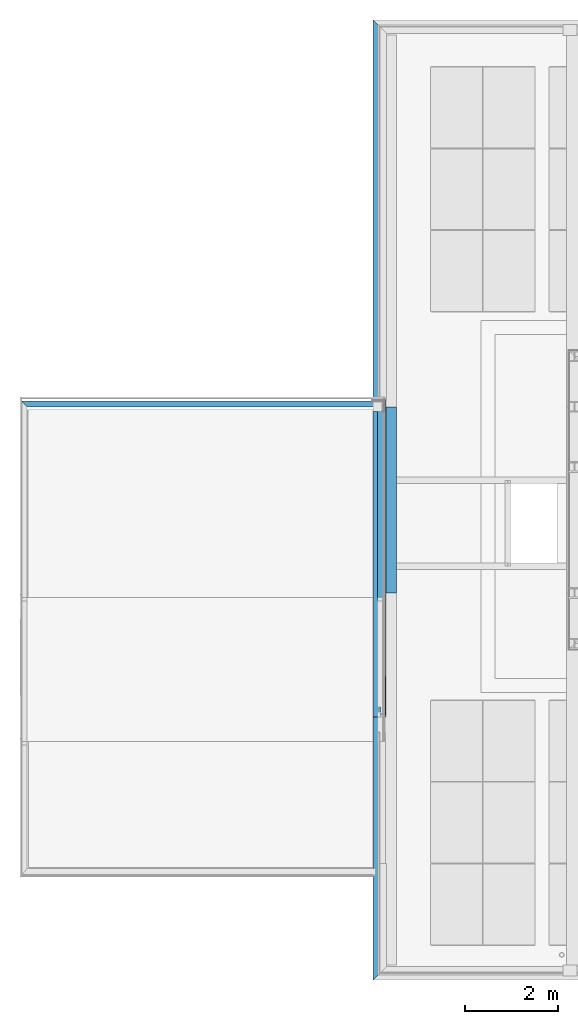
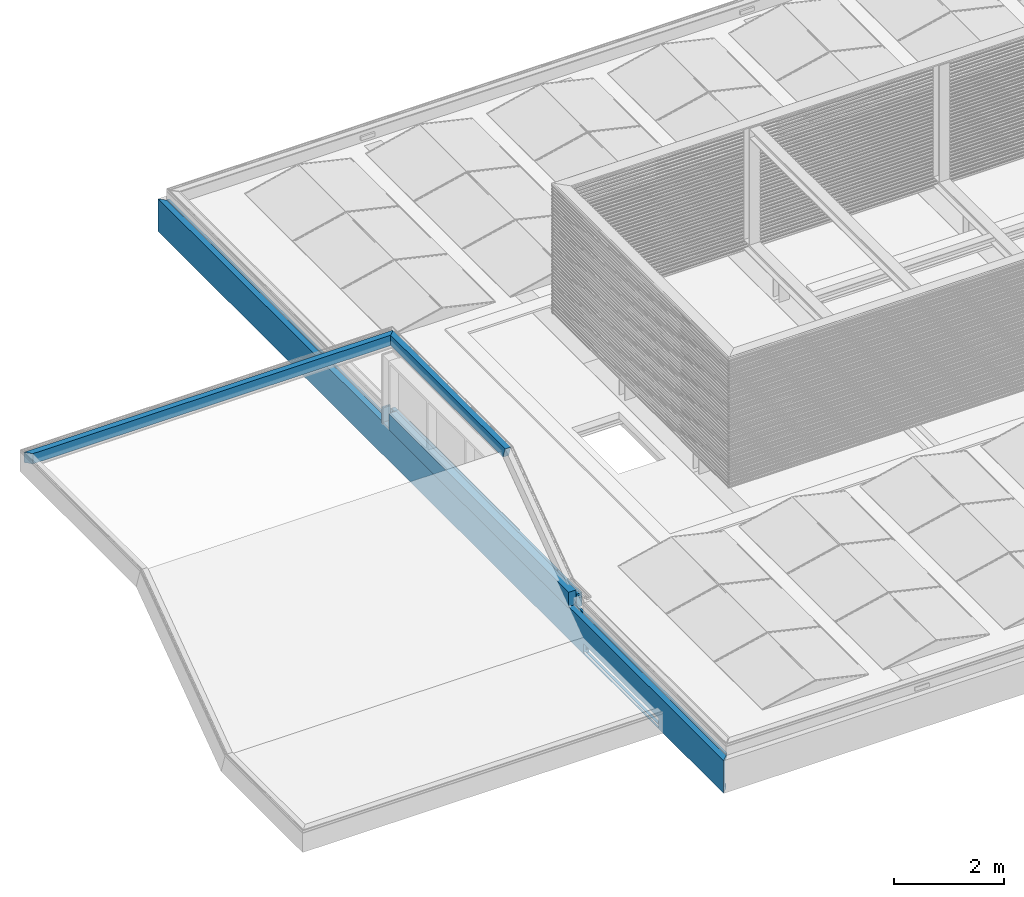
# One storey, part 6 of 63: 6 beams.
"""IFC2X3 building model written with IfcOpenShell, lengths in millimetres."""

from ifc_helpers import new_model, entity, si_unit, converted_unit, derived_unit, money_unit, direction, frame, origin_with_axes, place, context, subcontext, project, spatial, faceted_brep, material, type_object, element, save


model = new_model("IFC2X3")

# Units and contexts
model_context = context("Model", 3, precision=0.01, world=origin_with_axes(), true_north=direction((0.0, 1.0)))
body_context = subcontext(model_context, "Body", "Model", "MODEL_VIEW")
ifc_project = project(units=[si_unit("LENGTHUNIT", "METRE", prefix="MILLI"), si_unit("AREAUNIT", "SQUARE_METRE"), si_unit("VOLUMEUNIT", "CUBIC_METRE"), converted_unit("PLANEANGLEUNIT", "DEGREE", entity("IfcPlaneAngleMeasure", 0.0174532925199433), si_unit("PLANEANGLEUNIT", "RADIAN"), dimensions=[0, 0, 0, 0, 0, 0, 0]), money_unit("EUR"), converted_unit("TIMEUNIT", "Year", entity("IfcTimeMeasure", 31557600.0), si_unit("TIMEUNIT", "SECOND"), dimensions=[0, 0, 1, 0, 0, 0, 0]), si_unit("MASSUNIT", "GRAM", prefix="KILO"), si_unit("THERMODYNAMICTEMPERATUREUNIT", "DEGREE_CELSIUS"), si_unit("LUMINOUSINTENSITYUNIT", "LUMEN"), si_unit("ENERGYUNIT", "JOULE", prefix="MEGA"), derived_unit("THERMALCONDUCTANCEUNIT", [(si_unit("POWERUNIT", "WATT"), 1), (si_unit("LENGTHUNIT", "METRE"), -1), (si_unit("THERMODYNAMICTEMPERATUREUNIT", "KELVIN"), -1)]), derived_unit("SPECIFICHEATCAPACITYUNIT", [(si_unit("ENERGYUNIT", "JOULE"), 1), (si_unit("MASSUNIT", "GRAM", prefix="KILO"), -1), (si_unit("THERMODYNAMICTEMPERATUREUNIT", "KELVIN"), -1)]), derived_unit("MASSDENSITYUNIT", [(si_unit("MASSUNIT", "GRAM", prefix="KILO"), 1), (si_unit("VOLUMEUNIT", "CUBIC_METRE"), -1)])], contexts=[model_context])

# Site, building, storey
site_placement = place(None, origin_with_axes())
site = spatial("IfcSite", under=ifc_project, at=site_placement, Name="<site naam>", CompositionType="ELEMENT")
building_placement = place(site_placement, origin_with_axes())
building = spatial("IfcBuilding", under=site, at=building_placement, Name="<Naam gebouw>", CompositionType="ELEMENT")
storey_placement = place(building_placement, frame((0.0, 0.0, 12770.0), z_axis=(0.0, 0.0, 1.0), x_axis=(1.0, 0.0, 0.0)))
storey = spatial("IfcBuildingStorey", under=building, at=storey_placement, Name="04 4e verdieping", CompositionType="ELEMENT", Elevation=12770.0)

# Beams
ifc_material_1 = material(Name="beton_gewapend_prefab")
beam_type_1 = type_object("IfcBeamType", Name="Betonbanden 160 x 760", PredefinedType="BEAM")
beam_1_placement = place(storey_placement, frame((11725.00000000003, 20265.00000000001, 50.00000000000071), z_axis=(0.0, 0.0, 1.0), x_axis=(-1.0, 0.0, 0.0)))
element("IfcBeam", 1, at=beam_1_placement, inside=storey, type_object=beam_type_1, material=ifc_material_1, Name="41_Balk_Betonbanden", ObjectType="BEAM", context=body_context, shape_type="Brep", body=[
    faceted_brep([(59.99999757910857, -59.99999757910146, -30.00000230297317), (59.99999757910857, -59.99999757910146, -759.9999375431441), (59.99999757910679, 20589.99999719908, -759.9999375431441), (59.99999757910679, 20589.99999719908, -30.00000230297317), (59.99999757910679, 18214.60198163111, -530.0012514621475), (59.99999757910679, 18214.60198163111, -750.0012514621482), (59.99999757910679, 15465.00000000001, -750.0012514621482), (59.99999757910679, 15465.00000000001, -530.0012514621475), (-60.0000003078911, 60.0000003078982, -30.00000230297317), (-60.0000003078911, 60.0000003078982, 0.0), (-100.0000071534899, 100.0000071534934, 0.0), (-100.0000071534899, 100.0000071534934, -100.0000001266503), (4.298055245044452e-06, -4.298048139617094e-06, -100.0000001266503), (4.298055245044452e-06, -4.298048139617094e-06, -690.0000385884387), (-29.99999800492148, 29.99999800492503, -690.0000385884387), (-29.99999800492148, 29.99999800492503, -660.0000280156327), (-60.0000003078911, 60.0000003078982, -660.0000280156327), (-60.0000003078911, 60.0000003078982, -759.9999375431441), (4.298055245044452e-06, -4.298048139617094e-06, -759.9999375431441), (4.298055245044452e-06, -4.298048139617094e-06, -730.0000145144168), (29.99999527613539, -29.99999527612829, -730.0000145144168), (29.99999527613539, -29.99999527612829, -759.9999375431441), (29.99999527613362, 20559.99999489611, -759.9999375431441), (-100.0000071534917, 20429.99999246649, 0.0), (-60.00000030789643, 20469.99999931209, 0.0), (-60.00000030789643, 20469.99999931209, -30.00000230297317), (29.99999527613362, 20559.99999489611, -730.0000145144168), (4.298053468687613e-06, 20530.00000391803, -730.0000145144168), (4.298053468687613e-06, 20530.00000391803, -759.9999375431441), (-60.00000030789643, 20469.99999931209, -759.9999375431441), (-60.00000030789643, 20469.99999931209, -660.0000280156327), (-29.9999980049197, 20500.00000161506, -660.0000280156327), (-29.9999980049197, 20500.00000161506, -690.0000385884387), (4.298053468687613e-06, 20530.00000391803, -690.0000385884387), (4.298053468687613e-06, 20530.00000391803, -100.0000001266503), (-100.0000071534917, 20429.99999246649, -100.0000001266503), (-29.9999980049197, 18214.60198163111, -690.0000385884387), (-29.9999980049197, 18214.60198163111, -660.0000280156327), (-60.00000030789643, 18214.60198163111, -660.0000280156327), (-60.00000030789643, 18214.60198163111, -750.0012514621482), (4.298053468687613e-06, 18214.60198163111, -750.0012514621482), (4.298053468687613e-06, 18214.60198163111, -730.0000145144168), (29.99999527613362, 18214.60198163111, -730.0000145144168), (29.99999527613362, 18214.60198163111, -750.0012514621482), (4.298053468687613e-06, 18214.60198163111, -530.0012514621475), (4.298053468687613e-06, 18214.60198163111, -690.0000385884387), (29.99999527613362, 15465.00000000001, -750.0012514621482), (4.298053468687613e-06, 15465.00000000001, -750.0012514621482), (-60.00000030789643, 15465.00000000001, -750.0012514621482), (-60.00000030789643, 15465.00000000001, -660.0000280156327), (-29.9999980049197, 15465.00000000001, -660.0000280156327), (-29.9999980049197, 15465.00000000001, -690.0000385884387), (4.298053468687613e-06, 15465.00000000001, -690.0000385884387), (4.298053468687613e-06, 15465.00000000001, -530.0012514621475), (29.99999527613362, 15465.00000000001, -730.0000145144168), (4.298053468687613e-06, 15465.00000000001, -730.0000145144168)], [[[0, 1, 2, 3], [4, 5, 6, 7]], [[1, 0, 8, 9, 10, 11, 12, 13, 14, 15, 16, 17, 18, 19, 20, 21]], [[1, 21, 22, 2]], [[23, 24, 25, 3, 2, 22, 26, 27, 28, 29, 30, 31, 32, 33, 34, 35]], [[8, 0, 3, 25]], [[36, 37, 38, 39, 40, 41, 42, 43, 5, 4, 44, 45]], [[5, 43, 46, 6]], [[47, 48, 49, 50, 51, 52, 53, 7, 6, 46, 54, 55]], [[7, 53, 44, 4]], [[9, 8, 25, 24]], [[10, 9, 24, 23]], [[11, 10, 23, 35]], [[12, 11, 35, 34]], [[44, 53, 52, 13, 12, 34, 33, 45]], [[13, 52, 51, 14]], [[14, 51, 50, 15]], [[15, 50, 49, 16]], [[48, 39, 38, 30, 29, 17, 16, 49]], [[18, 17, 29, 28]], [[41, 40, 47, 55, 19, 18, 28, 27]], [[19, 55, 54, 20]], [[46, 43, 42, 26, 22, 21, 20, 54]], [[26, 42, 41, 27]], [[30, 38, 37, 31]], [[31, 37, 36, 32]], [[32, 36, 45, 33]], [[40, 39, 48, 47]]]),
])
ifc_material_2 = material(Name="ALG - BUITENAFWERKING")
beam_type_2 = type_object("IfcBeamType", Name="ALG - BUITENAFWERKING 159 x 360", PredefinedType="BEAM")
beam_2_placement = place(storey_placement, frame((11824.00616138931, 5334.38975903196, -19.99999943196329), z_axis=(0.0, 0.0, 1.0), x_axis=(1.0, 0.0, 0.0)))
element("IfcBeam", 2, at=beam_2_placement, inside=storey, type_object=beam_type_2, material=ifc_material_2, Name="47_Balk_ALG", ObjectType="BEAM", context=body_context, shape_type="Brep", body=[
    faceted_brep([(0.0, 0.0, 0.0), (0.0, 6566.589992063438, -5.680362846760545e-07), (0.0, 6566.589991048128, 360.0000006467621), (0.0, 0.0, 360.0000006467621), (-159.0000000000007, 0.0, 0.0), (-159.0000000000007, 6566.589991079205, -5.680362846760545e-07), (-159.0000000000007, 6566.589991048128, 360.0000006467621), (-159.0000000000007, 0.0, 360.0000006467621)], [[[0, 1, 2, 3]], [[4, 5, 1, 0]], [[5, 6, 2, 1]], [[3, 2, 6, 7]], [[3, 7, 4, 0]], [[7, 6, 5, 4]]]),
    faceted_brep([(-159.0000000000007, 6825.575913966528, 360.0000006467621), (-159.0000000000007, 6806.11960526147, 360.0000006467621), (-158.9734649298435, 6806.11960526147, 360.0000006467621), (-158.9734649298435, 6825.575913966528, 360.0000006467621), (-159.0000000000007, 6825.575913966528, 0.0), (-159.0000000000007, 6806.11960526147, -5.680362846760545e-07), (-158.9734649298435, 6806.11960526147, -5.680362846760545e-07), (-158.9734649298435, 6825.575913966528, -5.680362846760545e-07)], [[[0, 1, 2, 3]], [[4, 5, 1, 0]], [[6, 2, 1, 5]], [[6, 7, 3, 2]], [[0, 3, 7, 4]], [[7, 6, 5, 4]]]),
    faceted_brep([(0.0, 6774.642022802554, -5.680362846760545e-07), (0.0, 6803.092942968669, -5.680362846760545e-07), (0.0, 6803.092942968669, 360.0000006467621), (0.0, 6774.642022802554, 360.0000006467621), (-159.0000000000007, 6774.642022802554, -5.680362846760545e-07), (-159.0000000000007, 6803.092942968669, -5.680362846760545e-07), (-159.0000000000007, 6803.092942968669, 360.0000006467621), (-159.0000000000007, 6774.642022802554, 360.0000006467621)], [[[0, 1, 2, 3]], [[4, 5, 1, 0]], [[5, 6, 2, 1]], [[3, 2, 6, 7]], [[4, 0, 3, 7]], [[7, 6, 5, 4]]]),
    faceted_brep([(-157.973589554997, 6824.592937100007, 360.0000006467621), (-157.973589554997, 6805.09294138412, 360.0000006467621), (0.0, 6805.09294138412, 360.0000006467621), (0.0, 6824.592937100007, 360.0000006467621), (-157.973589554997, 6824.592937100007, -5.680362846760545e-07), (-157.973589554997, 6805.09294138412, -5.680362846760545e-07), (0.0, 6805.09294138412, -5.680362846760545e-07), (0.0, 6824.592937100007, -5.680362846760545e-07)], [[[0, 1, 2, 3]], [[4, 5, 1, 0]], [[5, 6, 2, 1]], [[3, 2, 6, 7]], [[4, 0, 3, 7]], [[7, 6, 5, 4]]]),
])
ifc_material_3 = material(Name="beton_gewapend C")
beam_type_3 = type_object("IfcBeamType", Name="beton_gewapend C 350 x 550", PredefinedType="BEAM")
beam_3_placement = place(storey_placement, frame((12000.00000000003, 12000.00000000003, -59.99999999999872), z_axis=(0.0, 0.0, 1.0), x_axis=(-1.0, 0.0, 0.0)))
element("IfcBeam", 3, at=beam_3_placement, inside=storey, type_object=beam_type_3, material=ifc_material_3, Name="28_Balk_beton_gewapend", ObjectType="BEAM", context=body_context, shape_type="Brep", body=[
    faceted_brep([(175.0000000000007, 0.0, -159.9999853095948), (174.9999999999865, 3725.0, -159.9999853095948), (-175.0000000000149, 3725.0, -159.9999853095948), (-175.0000000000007, 0.0, -159.9999853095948), (174.9999999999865, 275.0000000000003, -550.0000000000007), (174.9999999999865, 3725.0, -550.0000000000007), (174.9999999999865, 0.0, -220.0000000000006), (174.9999999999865, 275.0000000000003, -220.0000000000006), (-175.0000000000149, 3725.0, -550.0000000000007), (-175.0000000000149, 275.0000000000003, -550.0000000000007), (-175.0000000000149, 275.0000000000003, -220.0000000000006), (-175.0000000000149, 0.0, -220.0000000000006)], [[[0, 1, 2, 3]], [[4, 5, 1, 0, 6, 7]], [[5, 8, 2, 1]], [[3, 2, 8, 9, 10, 11]], [[3, 11, 6, 0]], [[9, 8, 5, 4]], [[7, 6, 11, 10]], [[7, 10, 9, 4]]]),
    faceted_brep([(-175.0000000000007, 4005.54614990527, 0.0), (-175.0000000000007, 4005.54614990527, -9.99998530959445), (-175.0000000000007, 0.0, -9.99998530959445), (-175.0000000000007, 0.0, 0.0), (174.9999999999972, 4005.54614990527, 0.0), (174.9999999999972, 4005.54614990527, -9.99998530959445), (175.0000000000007, 0.0, -9.99998530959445), (175.0000000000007, 0.0, 0.0)], [[[0, 1, 2, 3]], [[4, 5, 1, 0]], [[5, 6, 2, 1]], [[3, 2, 6, 7]], [[3, 7, 4, 0]], [[7, 6, 5, 4]]]),
])
beam_type_4 = type_object("IfcBeamType", Name="ALG - BUITENAFWERKING 120 x 230", PredefinedType="BEAM")
beam_4_placement = place(storey_placement, frame((11763.410238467, 12005.13994272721, 1759.973082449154), z_axis=(0.0, 0.0, 1.0), x_axis=(0.0, 1.0, 0.0)))
element("IfcBeam", 4, at=beam_4_placement, inside=storey, type_object=beam_type_4, material=ifc_material_2, Name="47_Balk_ALG", ObjectType="BEAM", context=body_context, shape_type="Brep", body=[
    faceted_brep([(120.000000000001, 7656.964715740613, 0.0), (120.000000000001, 7656.964715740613, 198.1232229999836), (120.000000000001, 7656.910931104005, 198.1301629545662), (120.000000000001, 7656.910931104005, 209.0654661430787), (120.000000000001, 7656.964715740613, 209.0654661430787), (120.000000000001, 7656.964715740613, 230.0000000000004), (119.9999999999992, -120.0000000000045, 230.0000000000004), (119.9999999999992, -120.0000000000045, 0.0), (119.9462153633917, 7656.910931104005, 209.0654661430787), (119.9462153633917, 7656.910931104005, 198.1301629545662), (0.0, 7536.964715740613, 0.0), (0.0, 7536.964715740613, 230.0000000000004), (0.0, 0.0, 230.0000000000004), (0.0, 0.0, 0.0)], [[[0, 1, 2, 3, 4, 5, 6, 7]], [[8, 9, 1, 0, 10, 11, 5, 4]], [[9, 2, 1]], [[8, 3, 2, 9]], [[8, 4, 3]], [[11, 12, 6, 5]], [[12, 13, 7, 6]], [[0, 7, 13, 10]], [[10, 13, 12, 11]]]),
])
beam_5_placement = place(storey_placement, frame((11763.410238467, 7900.000000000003, 1759.973082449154), z_axis=(0.0, 0.0, 1.0), x_axis=(1.0, 0.0, 0.0)))
element("IfcBeam", 5, at=beam_5_placement, inside=storey, type_object=beam_type_4, material=ifc_material_2, Name="47_Balk_ALG", ObjectType="BEAM", context=body_context, shape_type="Brep", body=[
    faceted_brep([(110.0807935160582, -74.39881742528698, 230.0000000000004), (110.005901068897, -74.09070568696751, 230.0000000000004), (110.1080148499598, -73.66977814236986, 230.0000000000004), (110.3545389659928, -73.49542906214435, 230.0000000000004), (119.9999999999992, -73.49566925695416, 230.0000000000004), (119.9999999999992, 4225.139942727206, 230.0000000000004), (0.0, 4105.139942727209, 230.0000000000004), (0.0, -74.39881742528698, 230.0000000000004), (110.005901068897, -74.34044659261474, 229.81954966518), (110.1080148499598, -74.26070314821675, 229.5730270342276), (110.3545389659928, -74.22767324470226, 229.4709168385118), (119.9999999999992, -74.22771874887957, 229.4710575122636), (119.9999999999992, 4225.139942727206, 0.0), (119.9999999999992, 0.0, 0.0), (0.0, 4105.139942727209, 0.0), (0.0, 0.0, 0.0)], [[[0, 1, 2, 3, 4, 5, 6, 7]], [[0, 8, 1]], [[8, 9, 2, 1]], [[9, 10, 3, 2]], [[3, 10, 11, 4]], [[12, 5, 4, 11, 13]], [[12, 14, 6, 5]], [[14, 15, 7, 6]], [[10, 9, 8, 0, 7, 15, 13, 11]], [[12, 13, 15, 14]]]),
])
beam_type_5 = type_object("IfcBeamType", Name="ALG - BUITENAFWERKING 120 x 300", PredefinedType="BEAM")
beam_6_placement = place(storey_placement, frame((11944.95984665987, 5334.38975903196, -60.00065790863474), z_axis=(0.0, 0.0, 1.0), x_axis=(1.0, 0.0, 0.0)))
element("IfcBeam", 6, at=beam_6_placement, inside=storey, type_object=beam_type_5, material=ifc_material_2, Name="47_Balk_ALG", ObjectType="BEAM", context=body_context, shape_type="Brep", body=[
    faceted_brep([(-119.9999999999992, 6805.09294138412, 300.0006579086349), (-46.95163649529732, 6805.09294138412, 300.0006579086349), (-46.95163649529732, 6572.589868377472, 300.0006579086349), (-27.40473812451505, 6572.589868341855, 300.0006579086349), (-27.40473044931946, 6824.639851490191, 300.0006579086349), (-27.45164483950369, 6824.592937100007, 300.0006579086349), (-119.9999999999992, 6824.592937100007, 300.0006579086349), (-46.95163649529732, 6805.09294138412, 40.00065790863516), (-119.9999999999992, 6805.09294138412, 40.00065790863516), (-46.95163649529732, 6572.589868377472, 40.00065790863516), (-27.40473812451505, 6572.589868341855, 40.00065790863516), (-27.40473044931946, 6824.639851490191, 40.00065790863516), (-27.45164483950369, 6824.592937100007, 40.00065790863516), (-119.9999999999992, 6824.592937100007, 40.00065790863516), (-119.9999999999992, 6803.092942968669, 40.00065790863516), (-119.9999999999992, 6825.575913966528, 40.00065790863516), (-119.9999999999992, 6825.575913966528, 0.0), (-119.9999999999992, 0.0, 0.0), (-119.9999999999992, 0.0, 300.0006579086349), (-119.9999999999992, 6566.589991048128, 300.0006579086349), (-119.9999999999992, 6566.589992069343, 40.00065790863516), (-119.9999999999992, 6774.642022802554, 40.00065790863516), (-119.9999999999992, 6774.642022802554, 300.0006579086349), (-119.9999999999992, 6803.092942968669, 300.0006579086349), (-48.95163897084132, 6803.092942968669, 40.00065790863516), (-48.95163897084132, 6553.124882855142, 40.00065790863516), (-45.97807067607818, 6553.124883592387, 40.00065790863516), (-45.97807067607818, 6571.589991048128, 40.00065790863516), (-26.45164360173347, 6571.589991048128, 40.00065790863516), (-26.45164360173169, 6825.575913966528, 40.00065790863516), (-26.45164360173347, 6825.575913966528, 300.0006579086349), (0.0, 6825.575913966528, 300.0006579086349), (0.0, 6825.575913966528, 0.0), (-30.55235304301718, 419.0663283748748, 0.0), (-30.55235304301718, 446.8979272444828, 0.0), (-27.74437574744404, 446.8979272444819, 0.0), (-27.74437574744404, 0.0, 0.0), (0.0, 0.0, 0.0), (-26.55235304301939, 0.0, 0.0), (-26.55235304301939, 448.9468793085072, 0.0), (-31.75235304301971, 448.9468793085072, 0.0), (-31.75235304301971, 419.0663283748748, 0.0), (-61.55235304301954, 371.2574325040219, 0.0), (-60.352353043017, 371.2574325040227, 0.0), (-60.352353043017, 395.8325689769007, 0.0), (-28.55235961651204, 405.4066335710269, 0.0), (-28.55235961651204, 439.5558597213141, 0.0), (-29.75235304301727, 439.5558597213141, 0.0), (-29.75235304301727, 407.1259104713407, 0.0), (-61.55235304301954, 397.5518438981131, 0.0), (-60.352353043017, 0.0, 223.3872919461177), (-60.352353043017, 0.0, 211.495769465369), (-26.55235304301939, 0.0, 206.1151341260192), (0.0, 0.0, 300.0006579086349), (-27.74437574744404, 0.0, 204.5142225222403), (-61.55235304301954, 0.0, 209.8961289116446), (-61.55235304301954, 0.0, 223.3872919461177), (-38.75334145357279, 0.0, 273.6082003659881), (-38.0456602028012, 0.0, 273.9702606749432), (-27.54566026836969, 0.0, 273.9702606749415), (-26.83855345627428, 0.0, 273.6089108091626), (-26.54566022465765, 0.0, 272.7365350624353), (-26.54566022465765, 0.0, 219.6863360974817), (-26.8385534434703, 0.0, 218.8139603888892), (-27.54566022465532, 0.0, 218.452610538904), (-28.04563878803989, 0.0, 218.6178831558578), (-34.24424379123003, 0.0, 223.0328461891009), (-34.52394359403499, 0.0, 223.4824961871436), (-34.46403926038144, 0.0, 224.0444555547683), (-34.09961564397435, 0.0, 224.3895951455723), (-33.64410887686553, 0.0, 224.3157731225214), (-30.44409772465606, 0.0, 222.0381254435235), (-30.44409772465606, 0.0, 222.7706499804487), (-30.29765111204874, 0.0, 223.2068378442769), (-29.94409771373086, 0.0, 223.3875127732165), (-29.74487899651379, 0.0, 223.3875127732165), (-29.3913255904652, 0.0, 223.2068378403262), (-29.24487897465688, 0.0, 222.7706499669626), (-29.24487897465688, 0.0, 221.1827102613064), (-28.49538217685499, 0.0, 220.6481334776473), (-28.15815556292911, 0.0, 220.5745669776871), (-27.86152994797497, 0.0, 220.7857133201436), (-27.74437574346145, 0.0, 221.1827206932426), (-27.74487897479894, 0.0, 257.9318388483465), (-27.89132856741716, 0.0, 258.3680199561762), (-28.24487896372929, 0.0, 258.5486911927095), (-28.74487897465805, 0.0, 258.5486911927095), (-29.09843236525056, 0.0, 258.3680162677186), (-29.24487897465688, 0.0, 257.9318284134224), (-29.24487897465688, 0.0, 256.0812400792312), (-29.39132558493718, 0.0, 255.6450522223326), (-29.74487897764, 0.0, 255.4643772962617), (-31.51831647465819, 0.0, 255.4643772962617), (-36.72380224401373, 0.0, 251.3690184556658), (-36.85816022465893, 0.0, 250.9728451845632), (-37.11597272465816, 0.0, 250.8379064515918), (-37.43628522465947, 0.0, 251.0017606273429), (-38.08666122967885, 0.0, 250.702728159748), (-38.24097272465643, 0.0, 250.3222477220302), (-38.51050397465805, 0.0, 250.2114051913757), (-38.81909772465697, 0.0, 250.4041748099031), (-44.74458729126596, 0.0, 249.2962254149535), (-71.1950692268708, 0.0, 249.2957494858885), (-71.44159334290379, 0.0, 249.4217254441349), (-71.54370712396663, 0.0, 249.7258667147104), (-71.4412499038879, 0.0, 250.0304322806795), (-71.19409772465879, 0.0, 250.1559839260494), (-66.5456602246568, 0.0, 250.7752563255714), (-66.24487897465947, 0.0, 251.146337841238), (-63.84644147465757, 0.0, 251.146337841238), (-63.54566022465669, 0.0, 250.7752563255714), (-60.54566022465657, 0.0, 250.7752563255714), (-60.24487897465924, 0.0, 251.146337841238), (-57.84644147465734, 0.0, 251.146337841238), (-57.54566022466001, 0.0, 250.7752563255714), (-54.54566022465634, 0.0, 250.7752563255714), (-54.24487897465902, 0.0, 251.146337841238), (-51.84644147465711, 0.0, 251.146337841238), (-51.54566022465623, 0.0, 250.7752563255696), (-48.54566022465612, 0.0, 250.7752563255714), (-48.24487897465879, 0.0, 251.146337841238), (-45.84644147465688, 0.0, 251.146337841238), (-45.545660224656, 0.0, 250.7752563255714), (-44.74487637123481, 0.0, 250.7752563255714), (-36.56232951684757, 0.0, 253.0872806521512), (-30.01101861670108, 0.0, 259.5624411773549), (-29.23066334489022, 0.0, 260.0273527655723), (-28.74346864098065, 0.0, 260.0282004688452), (-28.0372739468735, 0.0, 260.3901638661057), (-27.74487897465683, 0.0, 261.2619235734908), (-27.74487897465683, 0.0, 271.8738910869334), (-27.89132558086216, 0.0, 272.3100789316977), (-28.24487896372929, 0.0, 272.4907538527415), (-37.34644147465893, 0.0, 272.4907538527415), (-37.69999486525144, 0.0, 272.3100789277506), (-37.84644147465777, 0.0, 271.8738910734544), (-37.84644147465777, 0.0, 269.7751117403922), (-38.02131892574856, 0.0, 269.2539434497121), (-38.4436110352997, 0.0, 269.0377686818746), (-38.86618772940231, 0.0, 269.2530953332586), (-39.04175239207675, 0.0, 269.7739118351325), (-39.04565757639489, 0.0, 272.7345274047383), (-48.95163897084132, 6553.124882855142, 300.0006579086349), (-48.95163897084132, 6803.092942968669, 300.0006579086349), (-78.45164360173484, 6774.642022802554, 300.0006579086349), (-78.45164360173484, 6566.589991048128, 300.0006579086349), (-78.9516455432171, 6566.589992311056, 300.0006579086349), (-78.9516455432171, 6553.124882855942, 300.0006579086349), (-80.95164670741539, 6553.124882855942, 300.0006579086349), (-80.95164670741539, 6566.589992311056, 300.0006579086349), (-26.45164360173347, 6571.589991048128, 300.0006579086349), (-45.97807067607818, 6571.589991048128, 300.0006579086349), (-45.97807067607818, 6553.124883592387, 300.0006579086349), (-61.55235304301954, 786.4544232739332, 300.0006579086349), (-61.55235304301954, 812.7488346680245, 300.0006579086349), (-29.75235304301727, 822.3229012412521, 300.0006579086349), (-29.75235304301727, 854.7528504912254, 300.0006579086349), (-28.55235961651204, 854.7528504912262, 300.0006579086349), (-28.55235961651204, 820.6036243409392, 300.0006579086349), (-60.352353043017, 811.029559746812, 300.0006579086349), (-60.352353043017, 786.4544232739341, 300.0006579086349), (-30.55235304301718, 862.0949180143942, 300.0006579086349), (-30.55235304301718, 834.2633191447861, 300.0006579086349), (-31.75235304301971, 834.2633191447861, 300.0006579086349), (-31.75235304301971, 864.1438700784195, 300.0006579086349), (-26.55235304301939, 864.1438700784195, 300.0006579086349), (-26.55235304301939, 129.9363382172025, 300.0006579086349), (-60.352353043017, 122.4896092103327, 300.0006579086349), (-60.352353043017, 106.0318974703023, 300.0006579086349), (-61.55235304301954, 106.0318974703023, 300.0006579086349), (-61.55235304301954, 124.7034908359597, 300.0006579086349), (-27.74437574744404, 132.1519789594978, 300.0006579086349), (-27.74437574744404, 862.0949180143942, 300.0006579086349), (-34.24424379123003, 106.5224457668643, 300.0006579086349), (-28.04563878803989, 112.6326969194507, 300.0006579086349), (-27.54566022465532, 112.8614320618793, 300.0006579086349), (-26.8385534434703, 112.3613285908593, 300.0006579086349), (-26.54566022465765, 111.1539720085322, 300.0006579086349), (-26.54566022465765, 37.73318978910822, 300.0006579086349), (-26.83855345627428, 36.52583315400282, 300.0006579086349), (-27.54566026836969, 36.02572966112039, 300.0006579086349), (-38.0456602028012, 36.02572966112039, 300.0006579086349), (-38.75334145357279, 36.52681639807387, 300.0006579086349), (-39.04565757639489, 37.73596836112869, 300.0006579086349), (-39.04175239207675, 41.83342162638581, 300.0006579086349), (-38.86618772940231, 42.5542248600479, 300.0006579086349), (-38.4436110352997, 42.85223413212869, 300.0006579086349), (-38.02131892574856, 42.5530510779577, 300.0006579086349), (-37.84644147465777, 41.8317609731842, 300.0006579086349), (-37.84644147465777, 38.9270777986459, 300.0006579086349), (-37.69999486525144, 38.3233995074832, 300.0006579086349), (-37.34644147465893, 38.07334777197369, 300.0006579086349), (-28.24487896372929, 38.07334777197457, 300.0006579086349), (-27.89132558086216, 38.32339950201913, 300.0006579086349), (-27.74487897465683, 38.92707777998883, 300.0006579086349), (-27.74487897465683, 53.6139021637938, 300.0006579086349), (-28.0372739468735, 54.82040620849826, 300.0006579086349), (-28.74346864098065, 55.32135882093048, 300.0006579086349), (-29.23066334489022, 55.32253203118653, 300.0006579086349), (-30.01101861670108, 55.96596359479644, 300.0006579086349), (-36.56232951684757, 64.92750115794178, 300.0006579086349), (-44.74487637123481, 68.12731261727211, 300.0006579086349), (-45.545660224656, 68.12731261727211, 300.0006579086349), (-45.84644147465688, 67.61374064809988, 300.0006579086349), (-48.24487897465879, 67.61374064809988, 300.0006579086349), (-48.54566022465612, 68.12731261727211, 300.0006579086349), (-51.54566022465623, 68.127312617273, 300.0006579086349), (-51.84644147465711, 67.61374064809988, 300.0006579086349), (-54.24487897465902, 67.61374064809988, 300.0006579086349), (-54.54566022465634, 68.12731261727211, 300.0006579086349), (-57.54566022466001, 68.12731261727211, 300.0006579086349), (-57.84644147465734, 67.61374064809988, 300.0006579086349), (-60.24487897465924, 67.61374064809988, 300.0006579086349), (-60.54566022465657, 68.12731261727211, 300.0006579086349), (-63.54566022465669, 68.12731261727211, 300.0006579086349), (-63.84644147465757, 67.61374064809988, 300.0006579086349), (-66.24487897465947, 67.61374064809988, 300.0006579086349), (-66.5456602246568, 68.12731261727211, 300.0006579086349), (-71.19409772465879, 68.98437752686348, 300.0006579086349), (-71.4412499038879, 69.15813936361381, 300.0006579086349), (-71.54370712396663, 69.57965412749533, 300.0006579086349), (-71.44159334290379, 70.00058167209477, 300.0006579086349), (-71.1950692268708, 70.17493075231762, 300.0006579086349), (-44.74458729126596, 70.17427207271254, 300.0006579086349), (-38.81909772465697, 68.64088458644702, 300.0006579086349), (-38.51050397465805, 68.90767521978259, 300.0006579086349), (-38.24097272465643, 68.75427060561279, 300.0006579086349), (-38.08666122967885, 68.22769065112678, 300.0006579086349), (-37.43628522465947, 67.81383362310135, 300.0006579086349), (-37.11597272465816, 68.04060566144, 300.0006579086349), (-36.85816022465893, 67.8538522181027, 300.0006579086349), (-36.72380224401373, 67.30555358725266, 300.0006579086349), (-31.51831647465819, 61.6376304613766, 300.0006579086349), (-29.74487897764, 61.6376304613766, 300.0006579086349), (-29.39132558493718, 61.38757872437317, 300.0006579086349), (-29.24487897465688, 60.78390042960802, 300.0006579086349), (-29.24487897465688, 58.22271035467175, 300.0006579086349), (-29.09843236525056, 57.61903206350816, 300.0006579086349), (-28.74487897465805, 57.36898032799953, 300.0006579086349), (-28.24487896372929, 57.36898032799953, 300.0006579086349), (-27.89132856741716, 57.61902695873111, 300.0006579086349), (-27.74487897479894, 58.22269591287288, 300.0006579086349), (-27.74437574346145, 109.0829952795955, 300.0006579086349), (-27.86152994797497, 109.6324482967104, 300.0006579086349), (-28.15815556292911, 109.9246720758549, 300.0006579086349), (-28.49538217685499, 109.8228570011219, 300.0006579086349), (-29.24487897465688, 109.083009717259, 300.0006579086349), (-29.24487897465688, 106.8853219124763, 300.0006579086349), (-29.3913255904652, 106.2816435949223, 300.0006579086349), (-29.74487899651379, 106.0315918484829, 300.0006579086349), (-29.94409771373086, 106.0315918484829, 300.0006579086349), (-30.29765111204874, 106.2816435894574, 300.0006579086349), (-30.44409772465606, 106.8853218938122, 300.0006579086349), (-30.44409772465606, 107.8991262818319, 300.0006579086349), (-33.64410887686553, 104.7468916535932, 300.0006579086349), (-34.09961564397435, 104.6447229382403, 300.0006579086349), (-34.46403926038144, 105.1223916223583, 300.0006579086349), (-34.52394359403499, 105.9001360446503, 300.0006579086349), (-80.95164670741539, 6566.589992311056, 40.00065790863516), (-80.95164670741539, 6553.124882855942, 40.00065790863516), (-78.9516455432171, 6553.124882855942, 40.00065790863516), (-78.9516455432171, 6566.589992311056, 40.00065790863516), (-78.45164360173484, 6566.589991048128, 40.00065790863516), (-78.45164360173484, 6774.642022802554, 40.00065790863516)], [[[0, 1, 2, 3, 4, 5, 6]], [[7, 1, 0, 8]], [[9, 2, 1, 7]], [[3, 2, 9, 10]], [[10, 11, 4, 3]], [[12, 5, 4, 11]], [[13, 6, 5, 12]], [[14, 8, 0, 6, 13, 15, 16, 17, 18, 19, 20, 21, 22, 23]], [[10, 9, 7, 8, 14, 24, 25, 26, 27, 28, 29, 15, 13, 12, 11]], [[16, 15, 29, 30, 31, 32]], [[33, 34, 35, 36, 17, 16, 32, 37, 38, 39, 40, 41], [42, 43, 44, 45, 46, 47, 48, 49]], [[50, 51, 52, 38, 37, 53, 18, 17, 36, 54, 55, 56], [57, 58, 59, 60, 61, 62, 63, 64, 65, 66, 67, 68, 69, 70, 71, 72, 73, 74, 75, 76, 77, 78, 79, 80, 81, 82, 83, 84, 85, 86, 87, 88, 89, 90, 91, 92, 93, 94, 95, 96, 97, 98, 99, 100, 101, 102, 103, 104, 105, 106, 107, 108, 109, 110, 111, 112, 113, 114, 115, 116, 117, 118, 119, 120, 121, 122, 123, 124, 125, 126, 127, 128, 129, 130, 131, 132, 133, 134, 135, 136, 137, 138, 139, 140, 141]], [[142, 143, 23, 22, 144, 145, 146, 147, 148, 149, 19, 18, 53, 31, 30, 150, 151, 152], [153, 154, 155, 156, 157, 158, 159, 160], [161, 162, 163, 164, 165, 166, 167, 168, 169, 170, 171, 172], [173, 174, 175, 176, 177, 178, 179, 180, 181, 182, 183, 184, 185, 186, 187, 188, 189, 190, 191, 192, 193, 194, 195, 196, 197, 198, 199, 200, 201, 202, 203, 204, 205, 206, 207, 208, 209, 210, 211, 212, 213, 214, 215, 216, 217, 218, 219, 220, 221, 222, 223, 224, 225, 226, 227, 228, 229, 230, 231, 232, 233, 234, 235, 236, 237, 238, 239, 240, 241, 242, 243, 244, 245, 246, 247, 248, 249, 250, 251, 252, 253, 254, 255, 256, 257]], [[19, 149, 258, 20]], [[20, 258, 259, 260, 261, 262, 263, 21]], [[263, 144, 22, 21]], [[14, 23, 143, 24]], [[24, 143, 142, 25]], [[26, 25, 142, 152]], [[26, 152, 151, 27]], [[27, 151, 150, 28]], [[28, 150, 30, 29]], [[31, 53, 37, 32]], [[34, 33, 162, 161]], [[35, 34, 161, 172]], [[36, 35, 172, 171, 54]], [[38, 52, 166, 165, 39]], [[40, 39, 165, 164]], [[41, 40, 164, 163]], [[33, 41, 163, 162]], [[43, 42, 153, 160]], [[44, 43, 160, 159]], [[45, 44, 159, 158]], [[46, 45, 158, 157]], [[47, 46, 157, 156]], [[48, 47, 156, 155]], [[49, 48, 155, 154]], [[42, 49, 154, 153]], [[51, 50, 168, 167]], [[52, 51, 167, 166]], [[55, 54, 171, 170]], [[56, 55, 170, 169]], [[50, 56, 169, 168]], [[58, 57, 182, 181]], [[59, 58, 181, 180]], [[60, 59, 180, 179]], [[61, 60, 179, 178]], [[62, 61, 178, 177]], [[63, 62, 177, 176]], [[64, 63, 176, 175]], [[65, 64, 175, 174]], [[66, 65, 174, 173]], [[67, 66, 173, 257]], [[68, 67, 257, 256]], [[69, 68, 256, 255]], [[70, 69, 255, 254]], [[71, 70, 254, 253]], [[72, 71, 253, 252]], [[73, 72, 252, 251]], [[74, 73, 251, 250]], [[75, 74, 250, 249]], [[76, 75, 249, 248]], [[77, 76, 248, 247]], [[78, 77, 247, 246]], [[79, 78, 246, 245]], [[80, 79, 245, 244]], [[81, 80, 244, 243]], [[82, 81, 243, 242]], [[83, 82, 242, 241]], [[84, 83, 241, 240]], [[85, 84, 240, 239]], [[86, 85, 239, 238]], [[87, 86, 238, 237]], [[88, 87, 237, 236]], [[89, 88, 236, 235]], [[90, 89, 235, 234]], [[91, 90, 234, 233]], [[92, 91, 233, 232]], [[93, 92, 232, 231]], [[94, 93, 231, 230]], [[95, 94, 230, 229]], [[96, 95, 229, 228]], [[97, 96, 228, 227]], [[98, 97, 227, 226]], [[99, 98, 226, 225]], [[100, 99, 225, 224]], [[101, 100, 224, 223]], [[102, 101, 223, 222]], [[103, 102, 222, 221]], [[104, 103, 221, 220]], [[105, 104, 220, 219]], [[106, 105, 219, 218]], [[107, 106, 218, 217]], [[108, 107, 217, 216]], [[109, 108, 216, 215]], [[110, 109, 215, 214]], [[111, 110, 214, 213]], [[112, 111, 213, 212]], [[113, 112, 212, 211]], [[114, 113, 211, 210]], [[115, 114, 210, 209]], [[116, 115, 209, 208]], [[117, 116, 208, 207]], [[118, 117, 207, 206]], [[119, 118, 206, 205]], [[120, 119, 205, 204]], [[121, 120, 204, 203]], [[122, 121, 203, 202]], [[123, 122, 202, 201]], [[124, 123, 201, 200]], [[125, 124, 200, 199]], [[126, 125, 199, 198]], [[127, 126, 198, 197]], [[128, 127, 197, 196]], [[129, 128, 196, 195]], [[130, 129, 195, 194]], [[131, 130, 194, 193]], [[132, 131, 193, 192]], [[133, 132, 192, 191]], [[134, 133, 191, 190]], [[135, 134, 190, 189]], [[136, 135, 189, 188]], [[137, 136, 188, 187]], [[138, 137, 187, 186]], [[139, 138, 186, 185]], [[140, 139, 185, 184]], [[141, 140, 184, 183]], [[57, 141, 183, 182]], [[262, 145, 144, 263]], [[262, 261, 146, 145]], [[260, 147, 146, 261]], [[259, 148, 147, 260]], [[259, 258, 149, 148]]]),
])

save(model, "model.ifc")
